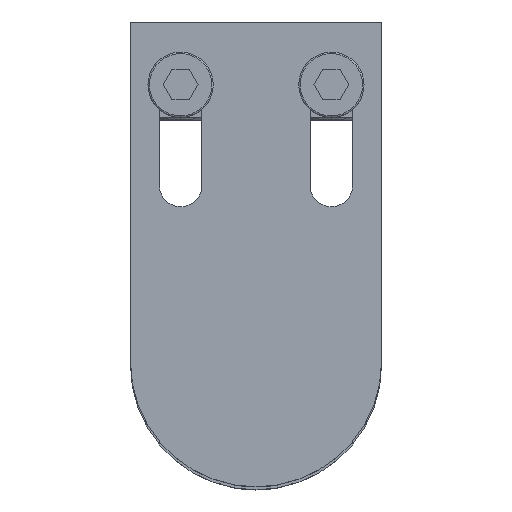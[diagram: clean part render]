
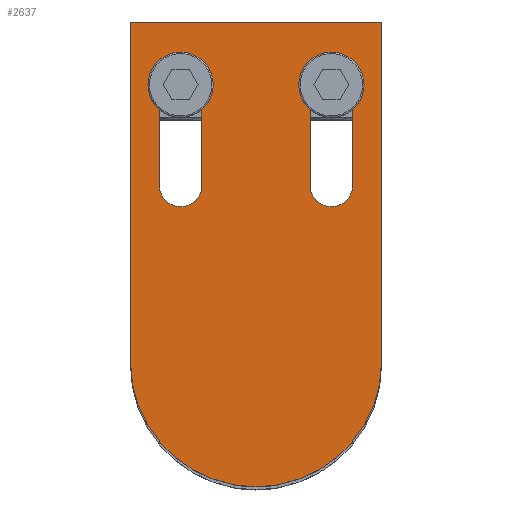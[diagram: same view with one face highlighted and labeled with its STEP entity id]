
A CAD part, top view. The second image highlights one B-rep face of the part: STEP entity #2637.
In plain terms, the highlighted planar face has unit normal (0, 0, 1) as drawn and (0, 0, -1) by its records, which use the part's own axes.
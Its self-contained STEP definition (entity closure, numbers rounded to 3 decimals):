
#24 = DIRECTION ( 'NONE',  ( 0., 1., 0. ) ) ;
#74 = CARTESIAN_POINT ( 'NONE',  ( 25., 67.5, -6. ) ) ;
#101 = AXIS2_PLACEMENT_3D ( 'NONE', #3536, #867, #3181 ) ;
#118 = DIRECTION ( 'NONE',  ( 0., 0., 1. ) ) ;
#172 = VERTEX_POINT ( 'NONE', #2653 ) ;
#194 = EDGE_CURVE ( 'NONE', #1823, #172, #1968, .T. ) ;
#266 = DIRECTION ( 'NONE',  ( 0., 0., 1. ) ) ;
#331 = EDGE_LOOP ( 'NONE', ( #2141, #2794, #785, #1494 ) ) ;
#332 = DIRECTION ( 'NONE',  ( 0., 1., 0. ) ) ;
#336 = EDGE_CURVE ( 'NONE', #1351, #3331, #4196, .T. ) ;
#388 = DIRECTION ( 'NONE',  ( 0., -1., 0. ) ) ;
#402 = DIRECTION ( 'NONE',  ( 0., 0., 1. ) ) ;
#424 = EDGE_LOOP ( 'NONE', ( #2067, #1768, #1123, #1776 ) ) ;
#433 = ORIENTED_EDGE ( 'NONE', *, *, #3803, .F. ) ;
#473 = CARTESIAN_POINT ( 'NONE',  ( -19.25, 35., -6. ) ) ;
#481 = FACE_BOUND ( 'NONE', #424, .T. ) ;
#482 = CARTESIAN_POINT ( 'NONE',  ( 0., 0., -6. ) ) ;
#584 = CARTESIAN_POINT ( 'NONE',  ( 0., 0., -6. ) ) ;
#591 = DIRECTION ( 'NONE',  ( 1., 0., 0. ) ) ;
#702 = CARTESIAN_POINT ( 'NONE',  ( -25., 0., -6. ) ) ;
#739 = DIRECTION ( 'NONE',  ( -1., 0., 0. ) ) ;
#755 = CARTESIAN_POINT ( 'NONE',  ( 25., 0., -6. ) ) ;
#785 = ORIENTED_EDGE ( 'NONE', *, *, #3013, .T. ) ;
#801 = PLANE ( 'NONE',  #2330 ) ;
#844 = VECTOR ( 'NONE', #2790, 1000. ) ;
#867 = DIRECTION ( 'NONE',  ( 0., 0., 1. ) ) ;
#892 = FACE_BOUND ( 'NONE', #331, .T. ) ;
#932 = EDGE_CURVE ( 'NONE', #1133, #3514, #2517, .T. ) ;
#977 = LINE ( 'NONE', #2628, #1084 ) ;
#983 = CARTESIAN_POINT ( 'NONE',  ( 25., 67.5, -6. ) ) ;
#1003 = FACE_OUTER_BOUND ( 'NONE', #3005, .T. ) ;
#1034 = AXIS2_PLACEMENT_3D ( 'NONE', #4108, #2122, #3470 ) ;
#1063 = CARTESIAN_POINT ( 'NONE',  ( -10.75, 35., -6. ) ) ;
#1084 = VECTOR ( 'NONE', #24, 1000. ) ;
#1123 = ORIENTED_EDGE ( 'NONE', *, *, #194, .T. ) ;
#1133 = VERTEX_POINT ( 'NONE', #74 ) ;
#1155 = CARTESIAN_POINT ( 'NONE',  ( 25., 0., -6. ) ) ;
#1160 = LINE ( 'NONE', #1353, #3582 ) ;
#1165 = CARTESIAN_POINT ( 'NONE',  ( -19.25, 35., -6. ) ) ;
#1176 = EDGE_CURVE ( 'NONE', #2750, #1823, #2256, .T. ) ;
#1182 = ORIENTED_EDGE ( 'NONE', *, *, #2306, .F. ) ;
#1310 = CARTESIAN_POINT ( 'NONE',  ( -10.75, 35., -6. ) ) ;
#1351 = VERTEX_POINT ( 'NONE', #3111 ) ;
#1353 = CARTESIAN_POINT ( 'NONE',  ( 10.75, 35., -6. ) ) ;
#1424 = LINE ( 'NONE', #473, #3428 ) ;
#1432 = VECTOR ( 'NONE', #2649, 1000. ) ;
#1494 = ORIENTED_EDGE ( 'NONE', *, *, #336, .T. ) ;
#1583 = DIRECTION ( 'NONE',  ( 0., 0., 1. ) ) ;
#1768 = ORIENTED_EDGE ( 'NONE', *, *, #1176, .T. ) ;
#1776 = ORIENTED_EDGE ( 'NONE', *, *, #4083, .T. ) ;
#1801 = CIRCLE ( 'NONE', #3010, 4.25 ) ;
#1823 = VERTEX_POINT ( 'NONE', #1063 ) ;
#1855 = EDGE_CURVE ( 'NONE', #3674, #2165, #3432, .T. ) ;
#1927 = VERTEX_POINT ( 'NONE', #2837 ) ;
#1947 = EDGE_CURVE ( 'NONE', #3900, #1927, #3835, .T. ) ;
#1963 = AXIS2_PLACEMENT_3D ( 'NONE', #2380, #402, #739 ) ;
#1968 = LINE ( 'NONE', #1310, #3438 ) ;
#2067 = ORIENTED_EDGE ( 'NONE', *, *, #2572, .T. ) ;
#2102 = EDGE_CURVE ( 'NONE', #3331, #3900, #1160, .T. ) ;
#2122 = DIRECTION ( 'NONE',  ( 0., 0., 1. ) ) ;
#2141 = ORIENTED_EDGE ( 'NONE', *, *, #2102, .T. ) ;
#2160 = LINE ( 'NONE', #702, #4141 ) ;
#2165 = VERTEX_POINT ( 'NONE', #755 ) ;
#2236 = DIRECTION ( 'NONE',  ( 1., 0., 0. ) ) ;
#2241 = CARTESIAN_POINT ( 'NONE',  ( -15., 55., -6. ) ) ;
#2256 = CIRCLE ( 'NONE', #1034, 4.25 ) ;
#2306 = EDGE_CURVE ( 'NONE', #2165, #1133, #2454, .T. ) ;
#2330 = AXIS2_PLACEMENT_3D ( 'NONE', #482, #118, #3756 ) ;
#2380 = CARTESIAN_POINT ( 'NONE',  ( 15., 55., -6. ) ) ;
#2454 = LINE ( 'NONE', #1155, #844 ) ;
#2465 = CARTESIAN_POINT ( 'NONE',  ( 10.75, 55., -6. ) ) ;
#2517 = LINE ( 'NONE', #983, #1432 ) ;
#2546 = CARTESIAN_POINT ( 'NONE',  ( -19.25, 55., -6. ) ) ;
#2572 = EDGE_CURVE ( 'NONE', #4079, #2750, #1424, .T. ) ;
#2628 = CARTESIAN_POINT ( 'NONE',  ( 19.25, 35., -6. ) ) ;
#2637 = ADVANCED_FACE ( 'NONE', ( #892, #481, #1003 ), #801, .F. ) ;
#2649 = DIRECTION ( 'NONE',  ( -1., 0., 0. ) ) ;
#2653 = CARTESIAN_POINT ( 'NONE',  ( -10.75, 55., -6. ) ) ;
#2666 = DIRECTION ( 'NONE',  ( 0., -1., 0. ) ) ;
#2750 = VERTEX_POINT ( 'NONE', #1165 ) ;
#2790 = DIRECTION ( 'NONE',  ( 0., 1., 0. ) ) ;
#2794 = ORIENTED_EDGE ( 'NONE', *, *, #1947, .T. ) ;
#2837 = CARTESIAN_POINT ( 'NONE',  ( 19.25, 35., -6. ) ) ;
#2845 = ORIENTED_EDGE ( 'NONE', *, *, #1855, .F. ) ;
#3005 = EDGE_LOOP ( 'NONE', ( #2845, #433, #3907, #1182 ) ) ;
#3010 = AXIS2_PLACEMENT_3D ( 'NONE', #2241, #266, #591 ) ;
#3013 = EDGE_CURVE ( 'NONE', #1927, #1351, #977, .T. ) ;
#3111 = CARTESIAN_POINT ( 'NONE',  ( 19.25, 55., -6. ) ) ;
#3181 = DIRECTION ( 'NONE',  ( -1., 0., 0. ) ) ;
#3300 = CARTESIAN_POINT ( 'NONE',  ( -25., 0., -6. ) ) ;
#3331 = VERTEX_POINT ( 'NONE', #2465 ) ;
#3428 = VECTOR ( 'NONE', #4075, 1000. ) ;
#3432 = CIRCLE ( 'NONE', #4143, 25. ) ;
#3438 = VECTOR ( 'NONE', #332, 1000. ) ;
#3470 = DIRECTION ( 'NONE',  ( 1., 0., 0. ) ) ;
#3514 = VERTEX_POINT ( 'NONE', #3832 ) ;
#3536 = CARTESIAN_POINT ( 'NONE',  ( 15., 35., -6. ) ) ;
#3582 = VECTOR ( 'NONE', #388, 1000. ) ;
#3666 = CARTESIAN_POINT ( 'NONE',  ( 10.75, 35., -6. ) ) ;
#3674 = VERTEX_POINT ( 'NONE', #3300 ) ;
#3756 = DIRECTION ( 'NONE',  ( 1., 0., 0. ) ) ;
#3803 = EDGE_CURVE ( 'NONE', #3514, #3674, #2160, .T. ) ;
#3832 = CARTESIAN_POINT ( 'NONE',  ( -25., 67.5, -6. ) ) ;
#3835 = CIRCLE ( 'NONE', #101, 4.25 ) ;
#3900 = VERTEX_POINT ( 'NONE', #3666 ) ;
#3907 = ORIENTED_EDGE ( 'NONE', *, *, #932, .F. ) ;
#4075 = DIRECTION ( 'NONE',  ( 0., -1., 0. ) ) ;
#4079 = VERTEX_POINT ( 'NONE', #2546 ) ;
#4083 = EDGE_CURVE ( 'NONE', #172, #4079, #1801, .T. ) ;
#4108 = CARTESIAN_POINT ( 'NONE',  ( -15., 35., -6. ) ) ;
#4141 = VECTOR ( 'NONE', #2666, 1000. ) ;
#4143 = AXIS2_PLACEMENT_3D ( 'NONE', #584, #1583, #2236 ) ;
#4196 = CIRCLE ( 'NONE', #1963, 4.25 ) ;
